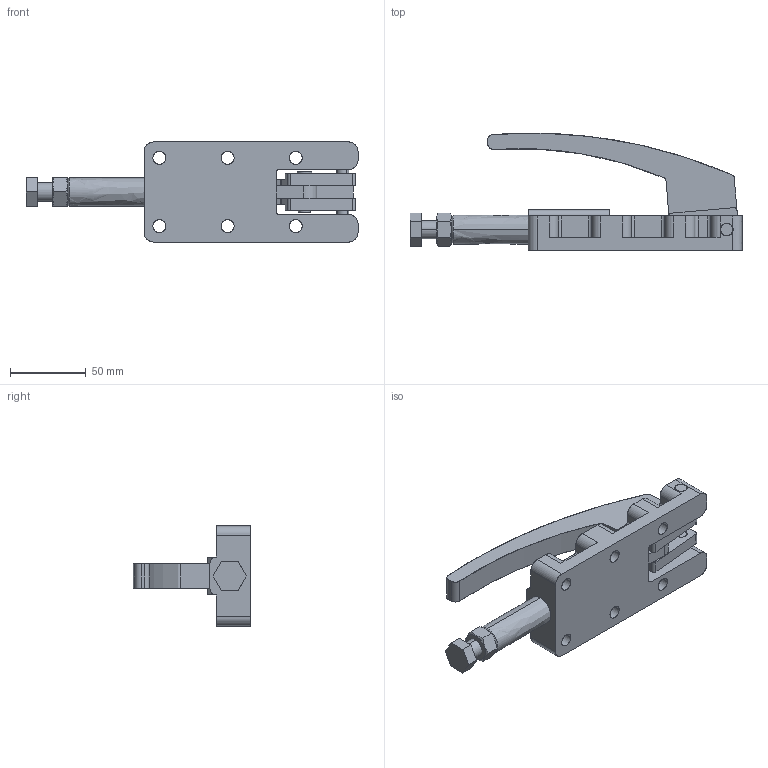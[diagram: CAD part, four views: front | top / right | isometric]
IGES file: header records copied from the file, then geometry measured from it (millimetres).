
Start section: SolidWorks IGES file using analytic representation for surfaces
Global section: file name: C:\Projetos\Grampos\KF-505\KF-505.IGS; native system: SolidWorks 2011; preprocessor: SolidWorks 2011; author: Usuario; date: 110523.084949; units: millimetre
Bounding box: 218.95 x 77.73 x 66 mm (x, y, z)
Surface area: 76014.5 mm2 (no closed solid volume)
Topology: 0 solids, 0 shells, 228 faces, 4013 edges, 4003 vertices
Faces by surface type: revolution 137, bspline 91
